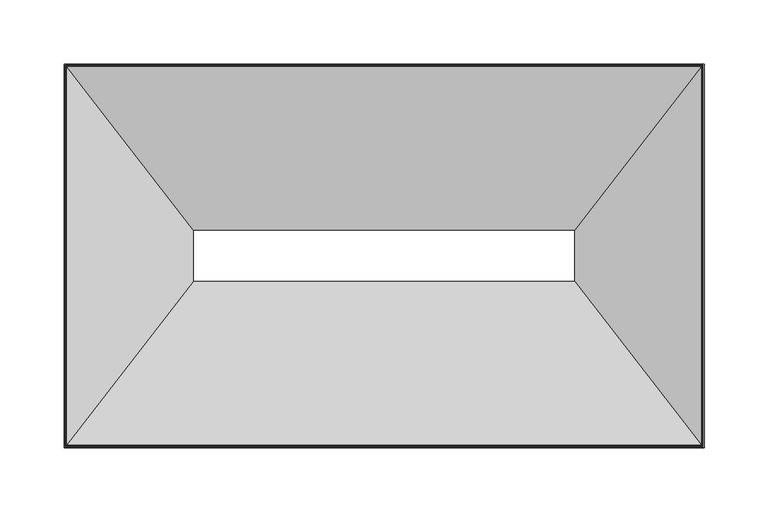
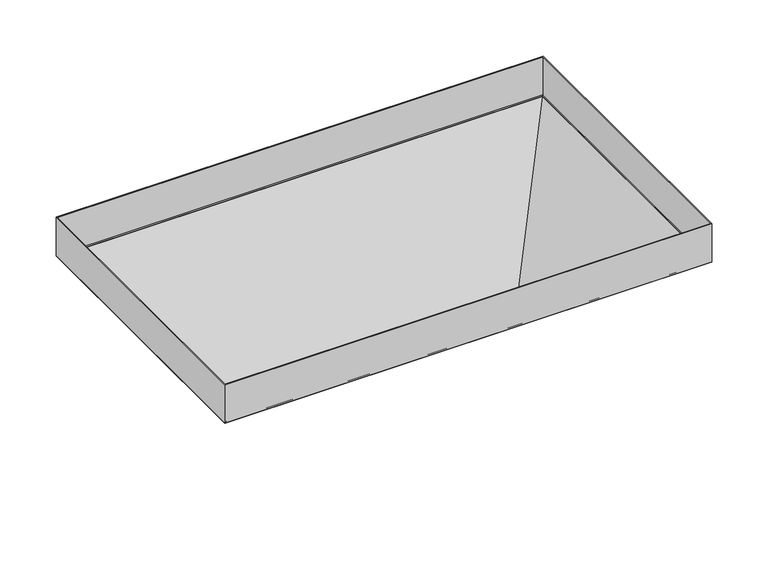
"""IFC4 building model written with IfcOpenShell, lengths in millimetres: cable carrier fitting geometry, BAKS_Vertical tee lengthwise : TRBJ_H42."""

from ifc_helpers import new_model, si_unit, origin, place, context, project, spatial, faceted_brep, source, transform, mapped, element, save


def cable_carrier_fitting_736d034b(model_context):
    return source(origin(), model_context, "Body", "Brep", [
        faceted_brep([(250.0, 150.0, -21.0), (-250.0, 150.0, -21.0), (-250.0, -150.0, -21.0), (250.0, -150.0, -21.0), (-248.009901, 147.7227723, -21.0), (248.009901, 147.7227723, -21.0), (248.009901, -147.7227723, -21.0), (-248.009901, -147.7227723, -21.0), (150.0, 21.0, -121.0), (150.0, -21.0, -121.0), (-150.0, -21.0, -121.0), (-150.0, 21.0, -121.0), (149.0, 20.0, -121.0), (-149.0, 20.0, -121.0), (-149.0, -20.0, -121.0), (149.0, -20.0, -121.0)], [[[0, 1, 2, 3], [4, 5, 6, 7]], [[8, 9, 10, 11], [12, 13, 14, 15]], [[1, 0, 8, 11]], [[2, 1, 11, 10]], [[3, 2, 10, 9]], [[0, 3, 9, 8]], [[12, 5, 4, 13]], [[13, 4, 7, 14]], [[14, 7, 6, 15]], [[5, 12, 15, 6]]]),
        faceted_brep([(250.0, 150.0, 21.0), (-250.0, 150.0, 21.0), (-250.0, -150.0, 21.0), (250.0, -150.0, 21.0), (-249.0, 149.0, 21.0), (249.0, 149.0, 21.0), (249.0, -149.0, 21.0), (-249.0, -149.0, 21.0), (250.0, 150.0, -21.0), (250.0, -150.0, -21.0), (-250.0, -150.0, -21.0), (-250.0, 150.0, -21.0), (248.009901, 147.7227723, -21.0), (-248.009901, 147.7227723, -21.0), (-248.009901, -147.7227723, -21.0), (248.009901, -147.7227723, -21.0), (-249.0, 149.0, -20.0), (249.0, 149.0, -20.0), (-249.0, -149.0, -20.0), (249.0, -149.0, -20.0)], [[[0, 1, 2, 3], [4, 5, 6, 7]], [[8, 9, 10, 11], [12, 13, 14, 15]], [[1, 0, 8, 11]], [[2, 1, 11, 10]], [[3, 2, 10, 9]], [[0, 3, 9, 8]], [[4, 16, 17, 5]], [[16, 4, 7, 18]], [[18, 7, 6, 19]], [[5, 17, 19, 6]], [[12, 17, 16, 13]], [[13, 16, 18, 14]], [[14, 18, 19, 15]], [[17, 12, 15, 19]]]),
    ])


if __name__ == "__main__":
    model = new_model("IFC4")
    model_context = context("Model", 3, world=origin())
    ifc_project = project(units=[si_unit("LENGTHUNIT", "METRE", prefix="MILLI")], contexts=[model_context])
    site = spatial("IfcSite", under=ifc_project)
    building = spatial("IfcBuilding", under=site)
    placement = place(None, origin())
    cable_carrier_fitting_shape = cable_carrier_fitting_736d034b(model_context)
    element("IfcCableCarrierFitting", 1, ObjectType="BAKS_Vertical tee lengthwise : TRBJ_H42", at=placement, inside=building, context=model_context, shape_type="MappedRepresentation", body=[
        mapped(cable_carrier_fitting_shape, transform((0.0, 0.0, 0.0), x_axis=(1.0, 0.0, 0.0), y_axis=(0.0, 1.0, 0.0), z_axis=(0.0, 0.0, 1.0))),
    ])
    save(model, "model.ifc")
